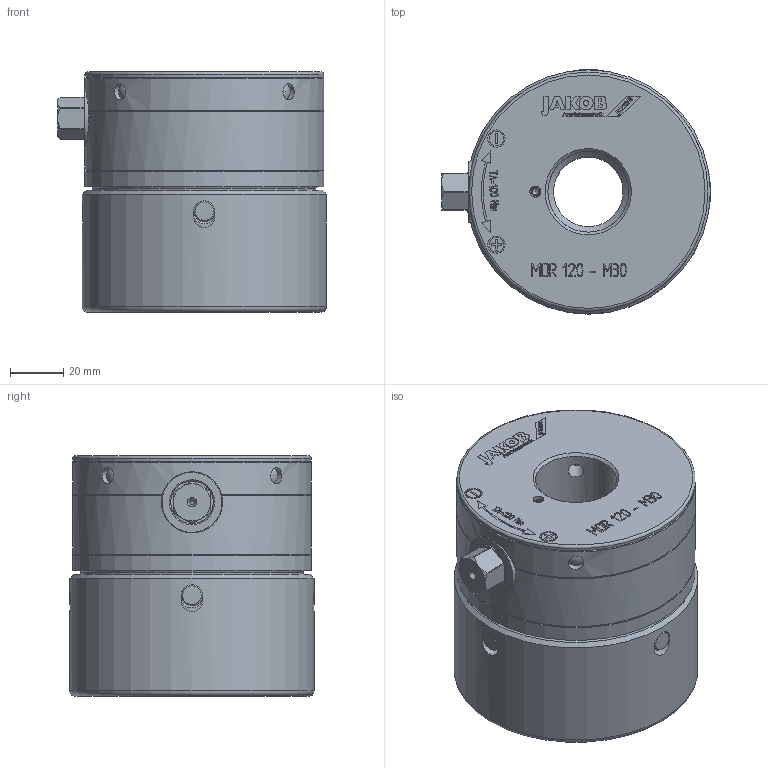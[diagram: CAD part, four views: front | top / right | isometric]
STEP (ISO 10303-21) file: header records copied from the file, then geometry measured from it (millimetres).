
FILE_DESCRIPTION( ( 'Unknown' ), '1' );
FILE_NAME( 'F:/PR/14_Step-Dateien/MDR - MDR-F/MDR-F 120 - M30.stp', 'Unknown', ( 'Unknown' ), ( 'Unknown' ), 'PSStep 10.1', 'Unknown', ' ' );
FILE_SCHEMA( ( 'AUTOMOTIVE_DESIGN { 1 0 10303 214 1 1 1 1 }' ) );
Length unit declared in the file: millimetre
Products named in the file (1): Text-MDR 120 - M30
Bounding box: 101.3 x 92 x 90.65 mm (x, y, z)
Volume: 506596.1 mm3; surface area: 89042.5 mm2
Topology: 1 solids, 9 shells, 681 faces, 1716 edges, 1144 vertices
Faces by surface type: plane 454, cylinder 93, extrusion 57, cone 48, sphere 12, torus 9, bspline 8
Full cylindrical faces by diameter (mm): 1.6 x2, 4.134 x1, 5.5 x2, 6 x8, 6.5 x2, 6.8 x8, 8 x8, 12 x1, 16 x1, 23 x1, 26.211 x1, 30.5 x1, 31 x1, 32.5 x1, 41 x4, 42 x1, 80 x4, 80.5 x1, 84 x1, 84.1 x1, 89 x1, 90 x4, 92 x1
Entity records: 29503 total; most frequent: CARTESIAN_POINT 9037, ORIENTED_EDGE 2956, DIRECTION 2776, EDGE_CURVE 1478, VECTOR 1114, LINE 1057, VERTEX_POINT 1054, EDGE_LOOP 931
